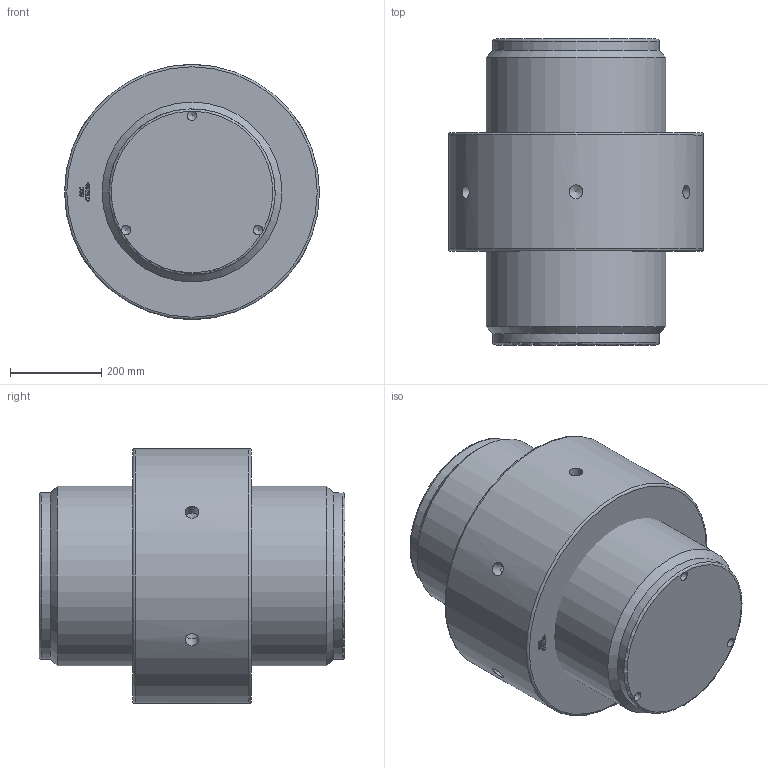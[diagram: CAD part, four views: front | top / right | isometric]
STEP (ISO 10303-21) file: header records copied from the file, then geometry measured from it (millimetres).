
FILE_DESCRIPTION(/* description */ (''),/* implementation_level */ '2;1');
FILE_NAME(/* name */ 'F:\Clienti LS\Redaelli\CYT\CYT\ARRNGEMENT\CYT128 61 061 0.stp',/* time_stamp */ '2021-05-09T08:57:31+02:00',/* author */ ('ranca'),/* organization */ (''),/* preprocessor_version */ 'ST-DEVELOPER v16.13',/* originating_system */ 'Autodesk Inventor 2018',/* authorisation */ '');
FILE_SCHEMA (('AUTOMOTIVE_DESIGN { 1 0 10303 214 3 1 1 }'));
Length unit declared in the file: millimetre
Products named in the file (3): CYT012-61-061-0; CYT012-61-061-0_1; CYT012-61-061-0_DADO
Assembly tree (2 placements, depth 2):
  CYT012-61-061-0
    CYT012-61-061-0_1
    CYT012-61-061-0_DADO
Bounding box: 560 x 672 x 560 mm (x, y, z)
Volume: 114163406.4 mm3; surface area: 2099126.3 mm2
Topology: 2 solids, 2 shells, 354 faces, 977 edges, 650 vertices
Faces by surface type: bspline 186, plane 139, cylinder 14, cone 11, torus 4
Full cylindrical faces by diameter (mm): 20.752 x3, 30 x6, 365 x2, 388.505 x1, 395 x1, 560 x1
Entity records: 12158 total; most frequent: CARTESIAN_POINT 4568, ORIENTED_EDGE 1856, EDGE_CURVE 928, DIRECTION 915, VERTEX_POINT 630, LINE 513, VECTOR 513, EDGE_LOOP 408
